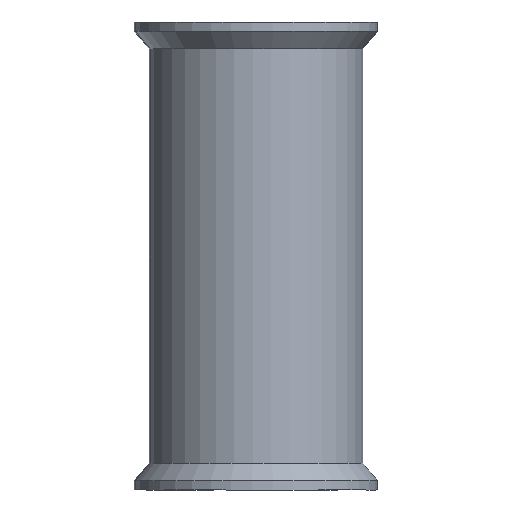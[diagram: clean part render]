
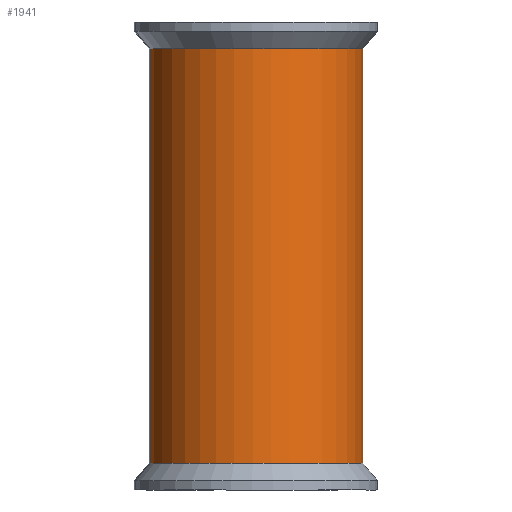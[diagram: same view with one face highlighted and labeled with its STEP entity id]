
A CAD part, front view. The second image highlights one B-rep face of the part: STEP entity #1941.
In plain terms, the highlighted cylindrical face has radius 40 mm (diameter 80 mm), a partial arc.
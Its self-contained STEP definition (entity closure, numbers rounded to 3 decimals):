
#310 = FACE_OUTER_BOUND ( 'NONE', #9291, .T. ) ;
#825 = CARTESIAN_POINT ( 'NONE',  ( 40., 0., -77.5 ) ) ;
#846 = AXIS2_PLACEMENT_3D ( 'NONE', #3094, #6821, #6778 ) ;
#1396 = ORIENTED_EDGE ( 'NONE', *, *, #5223, .F. ) ;
#1472 = CARTESIAN_POINT ( 'NONE',  ( -40., 0., 77.5 ) ) ;
#1941 = ADVANCED_FACE ( 'NONE', ( #310 ), #2618, .T. ) ;
#2047 = DIRECTION ( 'NONE',  ( -1., 0., 0. ) ) ;
#2493 = CIRCLE ( 'NONE', #4764, 40. ) ;
#2580 = DIRECTION ( 'NONE',  ( 0., 0., -1. ) ) ;
#2618 = CYLINDRICAL_SURFACE ( 'NONE', #7488, 40. ) ;
#2767 = CARTESIAN_POINT ( 'NONE',  ( 0., 0., 87.5 ) ) ;
#3041 = CARTESIAN_POINT ( 'NONE',  ( 40., 0., 87.5 ) ) ;
#3094 = CARTESIAN_POINT ( 'NONE',  ( 0., 0., 77.5 ) ) ;
#3445 = ORIENTED_EDGE ( 'NONE', *, *, #5652, .T. ) ;
#3850 = DIRECTION ( 'NONE',  ( 0., 0., -1. ) ) ;
#4185 = DIRECTION ( 'NONE',  ( 0., 0., -1. ) ) ;
#4232 = ORIENTED_EDGE ( 'NONE', *, *, #8043, .F. ) ;
#4587 = CARTESIAN_POINT ( 'NONE',  ( -40., 0., -77.5 ) ) ;
#4748 = VERTEX_POINT ( 'NONE', #1472 ) ;
#4764 = AXIS2_PLACEMENT_3D ( 'NONE', #6608, #5693, #2047 ) ;
#5223 = EDGE_CURVE ( 'NONE', #9902, #9192, #7680, .T. ) ;
#5554 = CIRCLE ( 'NONE', #846, 40. ) ;
#5652 = EDGE_CURVE ( 'NONE', #4748, #9648, #9649, .T. ) ;
#5693 = DIRECTION ( 'NONE',  ( 0., 0., -1. ) ) ;
#5696 = DIRECTION ( 'NONE',  ( -1., 0., 0. ) ) ;
#6608 = CARTESIAN_POINT ( 'NONE',  ( 0., 0., -77.5 ) ) ;
#6625 = ORIENTED_EDGE ( 'NONE', *, *, #6717, .T. ) ;
#6640 = CARTESIAN_POINT ( 'NONE',  ( 40., 0., 77.5 ) ) ;
#6661 = CARTESIAN_POINT ( 'NONE',  ( -40., 0., 87.5 ) ) ;
#6717 = EDGE_CURVE ( 'NONE', #9902, #4748, #5554, .T. ) ;
#6778 = DIRECTION ( 'NONE',  ( -1., 0., 0. ) ) ;
#6821 = DIRECTION ( 'NONE',  ( 0., 0., -1. ) ) ;
#7476 = VECTOR ( 'NONE', #2580, 1000. ) ;
#7488 = AXIS2_PLACEMENT_3D ( 'NONE', #2767, #4185, #5696 ) ;
#7680 = LINE ( 'NONE', #3041, #9678 ) ;
#8043 = EDGE_CURVE ( 'NONE', #9192, #9648, #2493, .T. ) ;
#9192 = VERTEX_POINT ( 'NONE', #825 ) ;
#9291 = EDGE_LOOP ( 'NONE', ( #1396, #6625, #3445, #4232 ) ) ;
#9648 = VERTEX_POINT ( 'NONE', #4587 ) ;
#9649 = LINE ( 'NONE', #6661, #7476 ) ;
#9678 = VECTOR ( 'NONE', #3850, 1000. ) ;
#9902 = VERTEX_POINT ( 'NONE', #6640 ) ;
